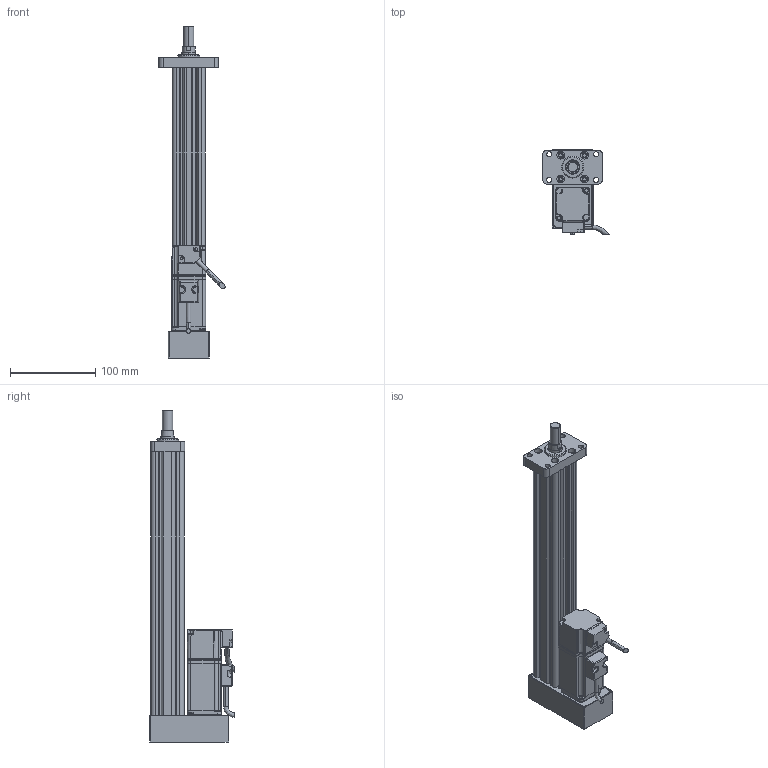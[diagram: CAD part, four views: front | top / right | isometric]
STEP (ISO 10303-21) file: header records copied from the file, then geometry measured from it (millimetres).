
FILE_DESCRIPTION (( 'STEP AP214' ), '1' );
FILE_NAME ('039-S250-D02-B-M3-C1-2.STEP', '2021-02-25T08:41:51', ( '' ), ( '' ), 'SwSTEP 2.0', 'SolidWorks 2018', '' );
FILE_SCHEMA (( 'AUTOMOTIVE_DESIGN' ));
Length unit declared in the file: millimetre
Products named in the file (7): CMC039-FL; 039-S250-D02-B-M3-C1-2; CMC039-XT; CMC039-GT; ECMA-CX0401ES-40框號系列機種-100W低慣量系列; CMC039-LJB; CMC039-DT
Assembly tree (6 placements, depth 2):
  039-S250-D02-B-M3-C1-2
    CMC039-GT
    CMC039-LJB
    CMC039-XT
    CMC039-FL
    CMC039-DT
    ECMA-CX0401ES-40框號系列機種-100W低慣量系列
Bounding box: 77.84 x 99.39 x 390 mm (x, y, z)
Volume: 517816.8 mm3; surface area: 180463.5 mm2
Topology: 6 solids, 14 shells, 615 faces, 1596 edges, 991 vertices
Faces by surface type: cylinder 250, plane 240, bspline 84, cone 41
Entity records: 24778 total; most frequent: CARTESIAN_POINT 10693, ORIENTED_EDGE 3126, DIRECTION 2457, EDGE_CURVE 1563, VERTEX_POINT 991, AXIS2_PLACEMENT_3D 842, LINE 773, VECTOR 773
